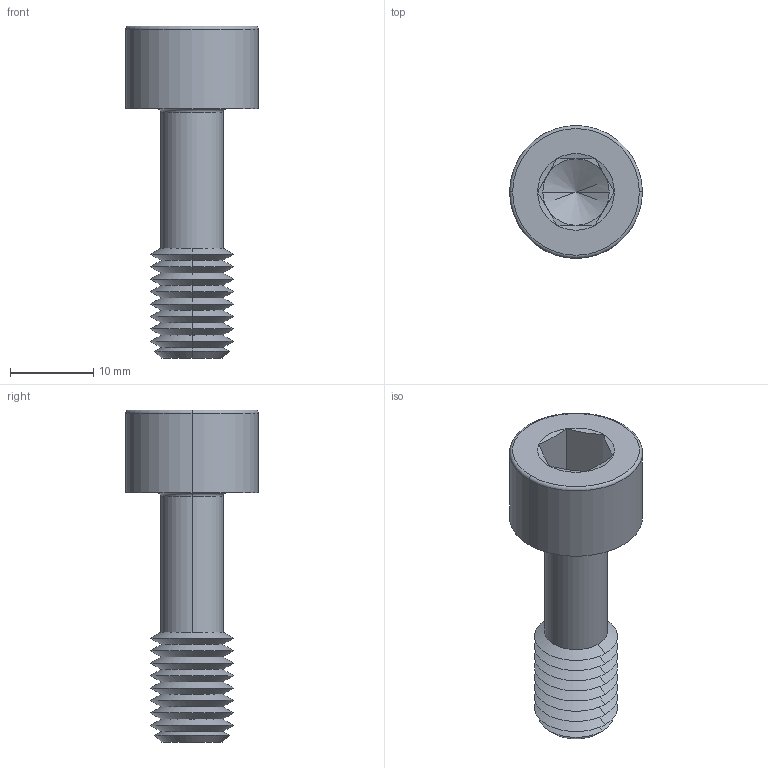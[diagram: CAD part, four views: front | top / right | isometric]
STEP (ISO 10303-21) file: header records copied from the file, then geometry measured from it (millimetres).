
FILE_DESCRIPTION (( 'STEP AP203' ), '1' );
FILE_NAME ('P0154.100-030-BL.step', '2024-06-17T11:33:52', ( '' ), ( '' ), 'SwSTEP 2.0', 'SolidWorks 2019', '' );
FILE_SCHEMA (( 'CONFIG_CONTROL_DESIGN' ));
Length unit declared in the file: millimetre
Products named in the file (1): P0154.100-030-BL
Bounding box: 16 x 16 x 40 mm (x, y, z)
Volume: 3052.1 mm3; surface area: 2221.6 mm2
Topology: 1 solids, 1 shells, 67 faces, 136 edges, 71 vertices
Faces by surface type: cone 44, plane 15, torus 4, cylinder 4
Entity records: 1791 total; most frequent: DIRECTION 332, CARTESIAN_POINT 303, ORIENTED_EDGE 268, AXIS2_PLACEMENT_3D 136, EDGE_CURVE 134, VERTEX_POINT 71, EDGE_LOOP 69, CIRCLE 68
